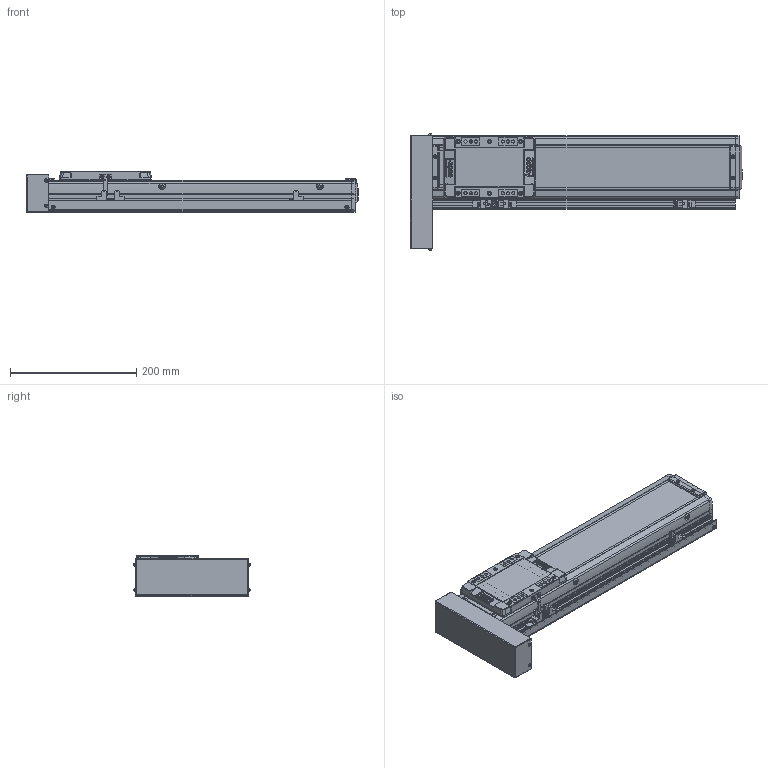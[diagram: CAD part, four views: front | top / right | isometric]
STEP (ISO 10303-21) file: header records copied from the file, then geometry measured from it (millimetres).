
FILE_DESCRIPTION(('STEP AP214'),'1');
FILE_NAME('Z:/Web/3D/SAN100/SAN100 양산용 (STEP)/SAN100ㅁㅁ-300PR+3SR.stp','2013-04-25T06:46:54',(' '),(' '),'Spatial InterOp 3D',' ',' ');
FILE_SCHEMA(('automotive_design'));
Length unit declared in the file: millimetre
Products named in the file (49): EE-SX674; SBK-SX674-352; 스크루 : Round - M3.0 x 6.0; M3.0 x 6.0; SRL-16x17-380L; SGD-SAN100; BTCV-SAN65; BHCS M3 X 6L; SUS COVER; SFX-SAN100; RRCV-SAN100; 스크루 : Round - M4.0 x 10.0; FRBL-SAN100; SLBL-SAN100; SLCV-SAN100; 스크루 : Countersunk - M3.0 x 6.0; BASE; 스크루 : Round - M5.0 x 6.0
Bounding box: 526.5 x 184.13 x 66 mm (x, y, z)
Volume: 1843303.6 mm3; surface area: 474616.1 mm2
Topology: 49 solids, 50 shells, 2349 faces, 6116 edges, 3963 vertices
Faces by surface type: plane 1280, cylinder 785, cone 186, sphere 64, torus 18, bspline 16
Entity records: 92560 total; most frequent: CARTESIAN_POINT 13755, DIRECTION 12863, ORIENTED_EDGE 12068, EDGE_CURVE 6034, AXIS2_PLACEMENT_3D 4532, VERTEX_POINT 3963, LINE 3799, VECTOR 3799
